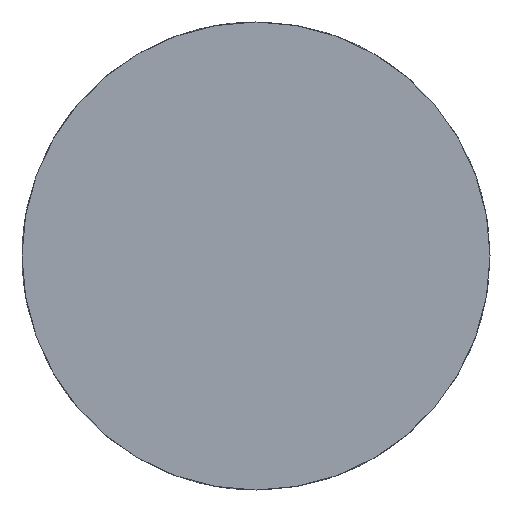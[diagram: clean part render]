
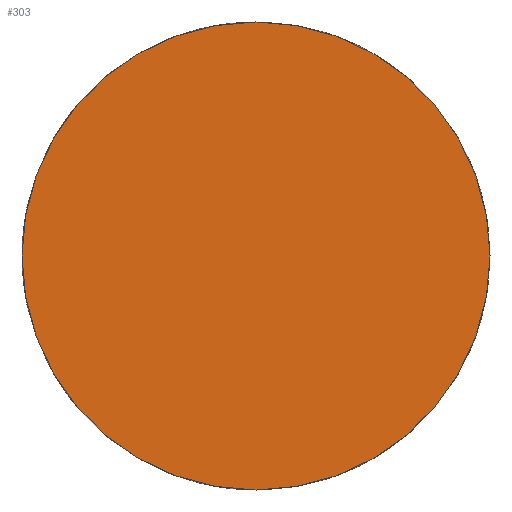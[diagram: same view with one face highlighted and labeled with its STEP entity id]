
A CAD part, left-side view. The second image highlights one B-rep face of the part: STEP entity #303.
In plain terms, the highlighted planar face has unit normal (-1, 0, 0).
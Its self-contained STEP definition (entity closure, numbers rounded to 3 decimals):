
#303 = ADVANCED_FACE( '', ( #644 ), #645, .F. );
#644 = FACE_OUTER_BOUND( '', #1021, .T. );
#645 = PLANE( '', #1022 );
#1021 = EDGE_LOOP( '', ( #1818 ) );
#1022 = AXIS2_PLACEMENT_3D( '', #1819, #1820, #1821 );
#1818 = ORIENTED_EDGE( '', *, *, #2718, .F. );
#1819 = CARTESIAN_POINT( '', ( 0., 0., 0. ) );
#1820 = DIRECTION( '', ( 1., 0., 0. ) );
#1821 = DIRECTION( '', ( 0., 1., 0. ) );
#2718 = EDGE_CURVE( '', #3417, #3417, #3418, .T. );
#3417 = VERTEX_POINT( '', #4316 );
#3418 = CIRCLE( '', #4317, 11.365 );
#4316 = CARTESIAN_POINT( '', ( 0., 11.365, 0. ) );
#4317 = AXIS2_PLACEMENT_3D( '', #4971, #4972, #4973 );
#4971 = CARTESIAN_POINT( '', ( 0., 0., 0. ) );
#4972 = DIRECTION( '', ( 1., 0., 0. ) );
#4973 = DIRECTION( '', ( 0., 1., 0. ) );
